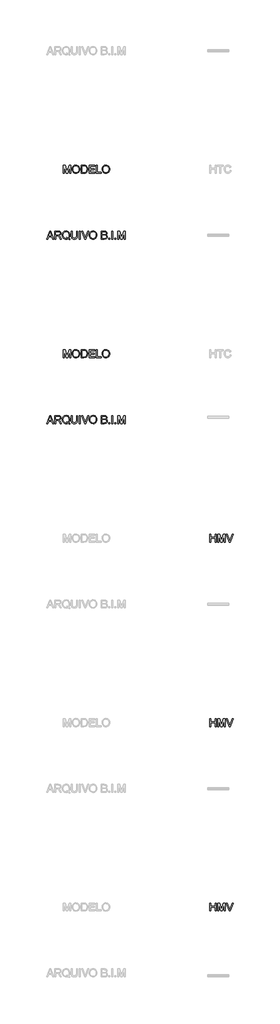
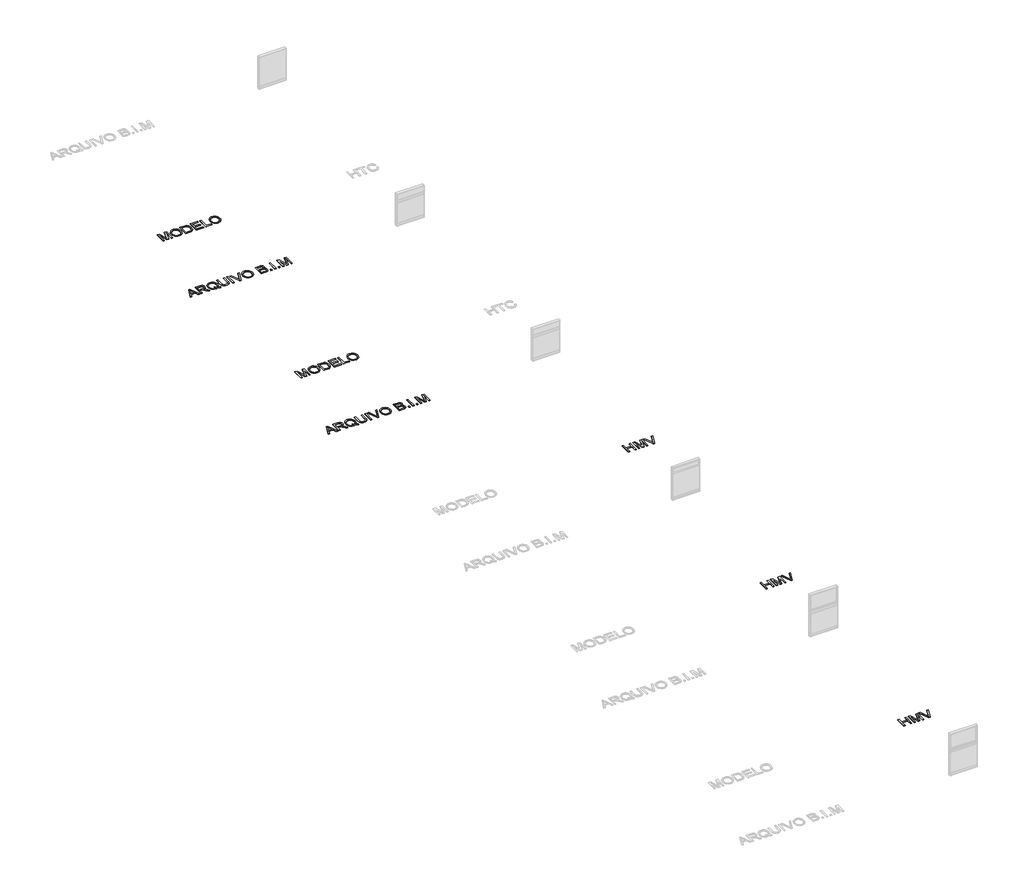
# One storey, part 5 of 8: 7 proxies.
"""IFC4 building model written with IfcOpenShell, lengths in millimetres."""

from ifc_helpers import new_model, si_unit, origin, origin_with_axes, place, context, project, spatial, polyline, outline, extrude, element, save

model = new_model("IFC4")

# Units and contexts
model_context = context("Model", 3, world=origin())
ifc_project = project(units=[si_unit("LENGTHUNIT", "METRE", prefix="MILLI")], contexts=[model_context])

# Site, building, storey
site = spatial("IfcSite", under=ifc_project)
building = spatial("IfcBuilding", under=site)
storey = spatial("IfcBuildingStorey", under=building, Name="Marelli - Linha HABITAT - Planta Baixa", Elevation=0.0)

# Proxies
placement = place(None, origin())
element("IfcBuildingElementProxy", 1, Name="300mm Arial", ObjectType="300mm Arial", at=placement, inside=storey, context=model_context, shape_type="SweptSolid", body=[
    extrude(outline(polyline([(29390.580402, -24280.5663201), (29510.8778144, -23979.1973896), (29542.9571244, -23979.1973896), (29663.2545368, -24280.5663201), (29623.449705, -24280.5663201), (29588.9423738, -24186.3885293), (29464.8189886, -24186.3885293), (29430.3852339, -24280.5663201), (29390.580402, -24280.5663201)]), holes=[polyline([(29478.6513517, -24148.717413), (29575.1835872, -24148.717413), (29548.0338959, -24074.6259792), (29526.9174694, -24016.8685059), (29508.1554877, -24068.1512561), (29478.6513517, -24148.717413)])]), origin_with_axes(), (0.0, 0.0, 1.0), 10.0),
    extrude(outline(polyline([(29703.5008271, -24280.5663201), (29703.5008271, -23979.1973896), (29833.3631714, -23979.1973896), (29868.2659757, -23981.2299376), (29893.6590304, -23987.3275817), (29912.2186771, -23998.5847708), (29926.6212572, -24016.0959537), (29935.8642923, -24037.8101885), (29938.945304, -24061.6765329), (29933.8409413, -24091.3646099), (29918.5278533, -24115.9759154), (29906.9280741, -24126.0052983), (29892.5461874, -24134.0205273), (29855.4360911, -24144.0085235), (29876.8468232, -24160.1217548), (29907.3810288, -24198.8965171), (29957.6337094, -24280.5663201), (29913.855752, -24280.5663201), (29874.6395313, -24218.0999573), (29846.3126176, -24176.750021), (29826.4102017, -24157.2154871), (29808.4943485, -24150.0417882), (29786.642158, -24148.717413), (29741.1719434, -24148.717413), (29741.1719434, -24280.5663201), (29703.5008271, -24280.5663201)]), holes=[polyline([(29741.1719434, -24111.0462967), (29825.4904967, -24111.0462967), (29849.706329, -24109.7127245), (29868.4959019, -24105.7120078), (29882.6409647, -24098.7774322), (29892.9232664, -24088.6422832), (29899.1864574, -24076.3826157), (29901.2741877, -24063.0744845), (29897.2918651, -24044.6987789), (29885.3448973, -24029.8915286), (29864.7894908, -24020.1242616), (29834.9818522, -24016.8685059), (29741.1719434, -24016.8685059), (29741.1719434, -24111.0462967)])]), origin_with_axes(), (0.0, 0.0, 1.0), 10.0),
    extrude(outline(polyline([(30231.2643374, -24244.4403081), (30255.5997314, -24263.036743), (30277.9853508, -24275.8574305), (30267.8318077, -24303.4485802), (30236.7641732, -24289.0460001), (30205.8069033, -24268.205485), (30170.9500843, -24281.0077785), (30132.5983863, -24285.2752096), (30094.0627473, -24280.3547879), (30059.2427164, -24265.5935229), (30030.0788713, -24241.9203165), (30008.5117893, -24210.2640708), (29995.185264, -24172.3630282), (29990.7430889, -24129.9554312), (29995.176067, -24087.511046), (30008.4750011, -24049.0581805), (30029.9593096, -24016.9512794), (30058.9484108, -23993.5447874), (30093.639683, -23979.2525719), (30132.2305043, -23974.4885001), (30171.1248282, -23979.3629365), (30205.9908443, -23993.9862458), (30234.9339603, -24017.3835407), (30256.0595839, -24048.5799339), (30268.9722419, -24085.9199564), (30273.2764612, -24127.7481393), (30270.6644991, -24162.5313819), (30262.8286126, -24193.5990164), (30249.7136194, -24220.9142546), (30231.2643374, -24244.4403081)]), holes=[polyline([(30142.9726585, -24194.3347804), (30174.6472983, -24206.3093393), (30200.215097, -24222.9559996), (30215.6983305, -24205.4816049), (30226.7577829, -24184.1076609), (30233.3934544, -24158.8341679), (30235.6053449, -24129.6611256), (30232.478348, -24096.5057608), (30223.0973571, -24067.8201623), (30207.6922985, -24044.3308969), (30186.4930986, -24026.7645316), (30160.934497, -24015.8108452), (30132.4512335, -24012.1596164), (30110.966925, -24014.0059242), (30091.3956028, -24019.5448474), (30073.7372671, -24028.7763863), (30057.9919177, -24041.7005406), (30045.0516685, -24058.2897193), (30035.8086334, -24078.5163313), (30030.2628123, -24102.3803764), (30028.4142053, -24129.8818548), (30030.2421189, -24156.6659634), (30035.7258599, -24180.1437324), (30044.8654282, -24200.3151621), (30057.6608239, -24217.1802523), (30073.2981079, -24230.4906827), (30090.9633415, -24239.9981331), (30110.6565245, -24245.7026032), (30132.3776571, -24247.6040933), (30153.2917485, -24245.6727128), (30172.918253, -24239.8785714), (30153.6228423, -24229.853787), (30133.2605739, -24223.1767288), (30142.9726585, -24194.3347804)])]), origin_with_axes(), (0.0, 0.0, 1.0), 10.0),
    extrude(outline(polyline([(30527.5564963, -23979.1973896), (30565.2276126, -23979.1973896), (30565.2276126, -24153.0584205), (30562.6708327, -24193.7737604), (30555.0004931, -24225.1265034), (30540.6714894, -24249.3147446), (30518.1387172, -24268.5365788), (30487.3469942, -24281.0905519), (30448.2411381, -24285.2752096), (30409.9906077, -24281.6331779), (30379.4104168, -24270.7070826), (30356.4913685, -24252.8740029), (30341.2242657, -24228.5110178), (30332.6434182, -24195.8338995), (30329.7831357, -24153.0584205), (30329.7831357, -23979.1973896), (30367.454252, -23979.1973896), (30367.454252, -24151.7340454), (30369.3120561, -24185.588386), (30374.8854683, -24209.1604248), (30384.9838291, -24225.4851883), (30400.4164788, -24237.597703), (30420.5396239, -24245.1024957), (30444.709471, -24247.6040933), (30483.0243808, -24242.6560805), (30497.3671801, -24236.4710644), (30508.500209, -24227.812042), (30516.8373347, -24215.6351479), (30522.7924245, -24198.8965171), (30527.5564963, -24151.7340454), (30527.5564963, -23979.1973896)])), origin_with_axes(), (0.0, 0.0, 1.0), 10.0),
    extrude(outline(polyline([(30635.8609557, -24280.5663201), (30635.8609557, -23979.1973896), (30673.532072, -23979.1973896), (30673.532072, -24280.5663201), (30635.8609557, -24280.5663201)])), origin_with_axes(), (0.0, 0.0, 1.0), 10.0),
    extrude(outline(polyline([(30837.9017474, -24280.5663201), (30717.972217, -23979.1973896), (30758.2920837, -23979.1973896), (30838.563935, -24196.3213432), (30854.8243192, -24245.2496485), (30870.8639742, -24196.3213432), (30951.3565547, -23979.1973896), (30991.6764214, -23979.1973896), (30876.8236625, -24280.5663201), (30837.9017474, -24280.5663201)])), origin_with_axes(), (0.0, 0.0, 1.0), 10.0),
    extrude(outline(polyline([(31012.5721187, -24133.8549804), (31015.0829134, -24098.5061192), (31022.6152972, -24067.213157), (31035.1692703, -24039.9760937), (31052.7448326, -24016.7949295), (31074.288922, -23998.2858666), (31098.7484761, -23985.0651074), (31126.1234951, -23977.1326519), (31156.4139789, -23974.4885001), (31195.9428992, -23979.454907), (31231.3883295, -23994.3541278), (31260.8188891, -24018.1376988), (31282.3031976, -24049.7571563), (31295.4365848, -24087.68579), (31299.8143806, -24130.3968896), (31295.2066586, -24173.6782064), (31281.3834926, -24212.140269), (31259.1082378, -24243.8149088), (31229.1442493, -24266.733957), (31194.0023217, -24280.6398965), (31156.1932497, -24285.2752096), (31116.057324, -24280.1524528), (31080.4095587, -24264.7841825), (31051.0525754, -24240.5591531), (31029.7889961, -24208.8661192), (31016.8763381, -24172.3998164), (31012.5721187, -24133.8549804)]), holes=[polyline([(31050.2432351, -24134.2228624), (31052.126331, -24159.1974513), (31057.7756189, -24181.3669401), (31067.1910987, -24200.7313286), (31080.3727705, -24217.2906169), (31096.3963306, -24230.5527628), (31114.3374757, -24240.0257242), (31134.1962056, -24245.709501), (31155.9725205, -24247.6040933), (31178.1213158, -24245.6911069), (31198.2145706, -24239.9521478), (31216.2522846, -24230.3872159), (31232.2344581, -24216.9963113), (31245.3195608, -24200.0875351), (31254.6660627, -24179.9689885), (31260.2739639, -24156.6406715), (31262.1432643, -24130.102584), (31258.9426909, -24096.7540812), (31249.3409708, -24067.9305269), (31233.5864244, -24044.358488), (31211.9273719, -24026.7645316), (31185.7985532, -24015.8108452), (31156.6347081, -24012.1596164), (31135.6148506, -24013.9185522), (31116.1125063, -24019.1953595), (31098.1276753, -24027.9900385), (31081.6603574, -24040.302589), (31067.9153664, -24056.7262208), (31058.0975157, -24077.8541437), (31052.2068052, -24103.6863575), (31050.2432351, -24134.2228624)])]), origin_with_axes(), (0.0, 0.0, 1.0), 10.0),
    extrude(outline(polyline([(31469.334404, -24280.5663201), (31469.334404, -23979.1973896), (31584.3343157, -23979.1973896), (31615.9629702, -23981.4138786), (31640.6570491, -23988.0633457), (31659.5845778, -23999.3113377), (31673.9135815, -24015.3234015), (31682.9358874, -24034.1589597), (31685.9433227, -24053.8774346), (31683.414134, -24072.0232141), (31675.8265679, -24089.0837416), (31663.125442, -24104.0105535), (31645.2555741, -24115.7551862), (31666.6019268, -24126.9020107), (31682.3748674, -24143.8613707), (31692.1145432, -24165.5112261), (31695.3611018, -24190.7295368), (31693.1446128, -24211.7447958), (31686.4951457, -24231.2333445), (31676.5715289, -24247.8064284), (31664.5325906, -24260.0752929), (31649.7897196, -24268.9596431), (31631.7543048, -24275.3791839), (31583.4513989, -24280.5663201), (31469.334404, -24280.5663201)]), holes=[polyline([(31507.0055203, -24101.6285176), (31575.7994534, -24101.6285176), (31615.9721672, -24098.3911561), (31630.0344565, -24092.8085468), (31640.1420143, -24084.4484284), (31646.2396584, -24073.4395597), (31648.2722064, -24059.9106994), (31646.3776141, -24046.7773121), (31640.6938373, -24035.3361821), (31631.4783933, -24026.4058467), (31618.9887996, -24020.8048433), (31570.575529, -24016.8685059), (31507.0055203, -24016.8685059), (31507.0055203, -24101.6285176)]), polyline([(31507.0055203, -24242.8952038), (31584.2607393, -24242.8952038), (31612.2197709, -24241.4236758), (31635.8745832, -24233.2199073), (31651.5463562, -24216.4812765), (31656.1540782, -24204.6538704), (31657.6899855, -24191.0974188), (31655.8873637, -24175.3520694), (31650.4794984, -24161.814012), (31641.0341282, -24151.2282076), (31627.1189917, -24144.3396173), (31607.4097138, -24140.5596298), (31580.5819193, -24139.2996339), (31507.0055203, -24139.2996339), (31507.0055203, -24242.8952038)])]), origin_with_axes(), (0.0, 0.0, 1.0), 10.0),
    extrude(outline(polyline([(31751.8677763, -24280.5663201), (31751.8677763, -24242.8952038), (31789.5388926, -24242.8952038), (31789.5388926, -24280.5663201), (31751.8677763, -24280.5663201)])), origin_with_axes(), (0.0, 0.0, 1.0), 10.0),
    extrude(outline(polyline([(31869.5900147, -24280.5663201), (31869.5900147, -23979.1973896), (31907.261131, -23979.1973896), (31907.261131, -24280.5663201), (31869.5900147, -24280.5663201)])), origin_with_axes(), (0.0, 0.0, 1.0), 10.0),
    extrude(outline(polyline([(31987.3122532, -24280.5663201), (31987.3122532, -24242.8952038), (32024.9833695, -24242.8952038), (32024.9833695, -24280.5663201), (31987.3122532, -24280.5663201)])), origin_with_axes(), (0.0, 0.0, 1.0), 10.0),
    extrude(outline(polyline([(32100.3256021, -24280.5663201), (32100.3256021, -23979.1973896), (32165.1464096, -23979.1973896), (32226.803432, -24191.6124536), (32239.2378435, -24235.9790223), (32252.7023245, -24187.9336337), (32313.3292773, -23979.1973896), (32378.1500848, -23979.1973896), (32378.1500848, -24280.5663201), (32340.4789685, -24280.5663201), (32340.4789685, -24016.8685059), (32264.7688539, -24280.5663201), (32213.706833, -24280.5663201), (32137.9967184, -24016.8685059), (32137.9967184, -24280.5663201), (32100.3256021, -24280.5663201)])), origin_with_axes(), (0.0, 0.0, 1.0), 10.0),
])
element("IfcBuildingElementProxy", 2, Name="300mm Arial", ObjectType="300mm Arial", at=placement, inside=storey, context=model_context, shape_type="SweptSolid", body=[
    extrude(outline(polyline([(30033.1230948, -21780.5663201), (30033.1230948, -21479.1973896), (30097.9439023, -21479.1973896), (30159.6009247, -21691.6124536), (30172.0353362, -21735.9790223), (30185.4998172, -21687.9336337), (30246.12677, -21479.1973896), (30310.9475775, -21479.1973896), (30310.9475775, -21780.5663201), (30273.2764612, -21780.5663201), (30273.2764612, -21516.8685059), (30197.5663466, -21780.5663201), (30146.5043257, -21780.5663201), (30070.7942111, -21516.8685059), (30070.7942111, -21780.5663201), (30033.1230948, -21780.5663201)])), origin_with_axes(), (0.0, 0.0, 1.0), 10.0),
    extrude(outline(polyline([(30362.7453625, -21633.8549804), (30365.2561571, -21598.5061192), (30372.7885409, -21567.213157), (30385.342514, -21539.9760937), (30402.9180763, -21516.7949295), (30424.4621657, -21498.2858666), (30448.9217198, -21485.0651074), (30476.2967388, -21477.1326519), (30506.5872226, -21474.4885001), (30546.116143, -21479.454907), (30581.5615732, -21494.3541278), (30610.9921328, -21518.1376988), (30632.4764413, -21549.7571563), (30645.6098286, -21587.68579), (30649.9876243, -21630.3968896), (30645.3799023, -21673.6782064), (30631.5567363, -21712.140269), (30609.2814815, -21743.8149088), (30579.317493, -21766.733957), (30544.1755654, -21780.6398965), (30506.3664934, -21785.2752096), (30466.2305677, -21780.1524528), (30430.5828024, -21764.7841825), (30401.2258192, -21740.5591531), (30379.9622398, -21708.8661192), (30367.0495818, -21672.3998164), (30362.7453625, -21633.8549804)]), holes=[polyline([(30400.4164788, -21634.2228624), (30402.2995747, -21659.1974513), (30407.9488626, -21681.3669401), (30417.3643424, -21700.7313286), (30430.5460142, -21717.2906169), (30446.5695743, -21730.5527628), (30464.5107194, -21740.0257242), (30484.3694493, -21745.709501), (30506.1457642, -21747.6040933), (30528.2945596, -21745.6911069), (30548.3878143, -21739.9521478), (30566.4255284, -21730.3872159), (30582.4077018, -21716.9963113), (30595.4928045, -21700.0875351), (30604.8393064, -21679.9689885), (30610.4472076, -21656.6406715), (30612.316508, -21630.102584), (30609.1159346, -21596.7540812), (30599.5142146, -21567.9305269), (30583.7596681, -21544.358488), (30562.1006157, -21526.7645316), (30535.9717969, -21515.8108452), (30506.8079518, -21512.1596164), (30485.7880943, -21513.9185522), (30466.28575, -21519.1953595), (30448.300919, -21527.9900385), (30431.8336012, -21540.302589), (30418.0886101, -21556.7262208), (30408.2707594, -21577.8541437), (30402.3800489, -21603.6863575), (30400.4164788, -21634.2228624)])]), origin_with_axes(), (0.0, 0.0, 1.0), 10.0),
    extrude(outline(polyline([(30701.7854092, -21780.5663201), (30701.7854092, -21479.1973896), (30805.7488611, -21479.1973896), (30859.5332088, -21483.5383972), (30883.555903, -21491.9077126), (30903.826201, -21505.0962821), (30924.666716, -21528.0521186), (30939.5107545, -21556.5997614), (30948.3951047, -21590.1873876), (30951.3565547, -21628.2631741), (30949.3515979, -21660.6091985), (30943.3367273, -21689.0740679), (30934.1764656, -21713.3082943), (30922.7353355, -21732.9623899), (30909.5651601, -21748.477813), (30895.2177623, -21760.2960221), (30878.745846, -21769.0608107), (30859.202115, -21775.4159721), (30810.7520562, -21780.5663201), (30701.7854092, -21780.5663201)]), holes=[polyline([(30739.4565255, -21742.8952038), (30806.1167431, -21742.8952038), (30833.6894986, -21741.5340404), (30854.60359, -21737.4505502), (30870.3857276, -21730.8838566), (30882.5626217, -21722.0730828), (30895.6500236, -21705.7667134), (30905.48167, -21684.6594839), (30911.6344963, -21658.6594239), (30913.6854384, -21627.6745629), (30909.6663276, -21586.6189322), (30897.6089953, -21556.3054558), (30879.7943096, -21535.4833349), (30858.5031392, -21522.9017706), (30836.8348897, -21518.3768221), (30805.0866735, -21516.8685059), (30739.4565255, -21516.8685059), (30739.4565255, -21742.8952038)])]), origin_with_axes(), (0.0, 0.0, 1.0), 10.0),
    extrude(outline(polyline([(31003.1543397, -21780.5663201), (31003.1543397, -21479.1973896), (31219.7632584, -21479.1973896), (31219.7632584, -21516.8685059), (31040.825456, -21516.8685059), (31040.825456, -21606.3374072), (31210.3454794, -21606.3374072), (31210.3454794, -21644.0085235), (31040.825456, -21644.0085235), (31040.825456, -21742.8952038), (31224.472148, -21742.8952038), (31224.472148, -21780.5663201), (31003.1543397, -21780.5663201)])), origin_with_axes(), (0.0, 0.0, 1.0), 10.0),
    extrude(outline(polyline([(31280.9788224, -21780.5663201), (31280.9788224, -21479.1973896), (31318.6499387, -21479.1973896), (31318.6499387, -21742.8952038), (31469.334404, -21742.8952038), (31469.334404, -21780.5663201), (31280.9788224, -21780.5663201)])), origin_with_axes(), (0.0, 0.0, 1.0), 10.0),
    extrude(outline(polyline([(31497.5877412, -21633.8549804), (31500.0985358, -21598.5061192), (31507.6309197, -21567.213157), (31520.1848927, -21539.9760937), (31537.7604551, -21516.7949295), (31559.3045444, -21498.2858666), (31583.7640986, -21485.0651074), (31611.1391175, -21477.1326519), (31641.4296013, -21474.4885001), (31680.9585217, -21479.454907), (31716.4039519, -21494.3541278), (31745.8345115, -21518.1376988), (31767.3188201, -21549.7571563), (31780.4522073, -21587.68579), (31784.830003, -21630.3968896), (31780.222281, -21673.6782064), (31766.3991151, -21712.140269), (31744.1238603, -21743.8149088), (31714.1598717, -21766.733957), (31679.0179442, -21780.6398965), (31641.2088721, -21785.2752096), (31601.0729464, -21780.1524528), (31565.4251811, -21764.7841825), (31536.0681979, -21740.5591531), (31514.8046186, -21708.8661192), (31501.8919605, -21672.3998164), (31497.5877412, -21633.8549804)]), holes=[polyline([(31535.2588575, -21634.2228624), (31537.1419535, -21659.1974513), (31542.7912413, -21681.3669401), (31552.2067212, -21700.7313286), (31565.3883929, -21717.2906169), (31581.4119531, -21730.5527628), (31599.3530981, -21740.0257242), (31619.2118281, -21745.709501), (31640.9881429, -21747.6040933), (31663.1369383, -21745.6911069), (31683.230193, -21739.9521478), (31701.2679071, -21730.3872159), (31717.2500805, -21716.9963113), (31730.3351832, -21700.0875351), (31739.6816852, -21679.9689885), (31745.2895863, -21656.6406715), (31747.1588867, -21630.102584), (31743.9583134, -21596.7540812), (31734.3565933, -21567.9305269), (31718.6020468, -21544.358488), (31696.9429944, -21526.7645316), (31670.8141757, -21515.8108452), (31641.6503305, -21512.1596164), (31620.630473, -21513.9185522), (31601.1281287, -21519.1953595), (31583.1432977, -21527.9900385), (31566.6759799, -21540.302589), (31552.9309888, -21556.7262208), (31543.1131381, -21577.8541437), (31537.2224276, -21603.6863575), (31535.2588575, -21634.2228624)])]), origin_with_axes(), (0.0, 0.0, 1.0), 10.0),
])
element("IfcBuildingElementProxy", 3, Name="300mm Arial", ObjectType="300mm Arial", at=placement, inside=storey, context=model_context, shape_type="SweptSolid", body=[
    extrude(outline(polyline([(29390.580402, -31280.5663201), (29510.8778144, -30979.1973896), (29542.9571244, -30979.1973896), (29663.2545368, -31280.5663201), (29623.449705, -31280.5663201), (29588.9423738, -31186.3885293), (29464.8189886, -31186.3885293), (29430.3852339, -31280.5663201), (29390.580402, -31280.5663201)]), holes=[polyline([(29478.6513517, -31148.717413), (29575.1835872, -31148.717413), (29548.0338959, -31074.6259792), (29526.9174694, -31016.8685059), (29508.1554877, -31068.1512561), (29478.6513517, -31148.717413)])]), origin_with_axes(), (0.0, 0.0, 1.0), 10.0),
    extrude(outline(polyline([(29703.5008271, -31280.5663201), (29703.5008271, -30979.1973896), (29833.3631714, -30979.1973896), (29868.2659757, -30981.2299376), (29893.6590304, -30987.3275817), (29912.2186771, -30998.5847708), (29926.6212572, -31016.0959537), (29935.8642923, -31037.8101885), (29938.945304, -31061.6765329), (29933.8409413, -31091.3646099), (29918.5278533, -31115.9759154), (29906.9280741, -31126.0052983), (29892.5461874, -31134.0205273), (29855.4360911, -31144.0085235), (29876.8468232, -31160.1217548), (29907.3810288, -31198.8965171), (29957.6337094, -31280.5663201), (29913.855752, -31280.5663201), (29874.6395313, -31218.0999573), (29846.3126176, -31176.750021), (29826.4102017, -31157.2154871), (29808.4943485, -31150.0417882), (29786.642158, -31148.717413), (29741.1719434, -31148.717413), (29741.1719434, -31280.5663201), (29703.5008271, -31280.5663201)]), holes=[polyline([(29741.1719434, -31111.0462967), (29825.4904967, -31111.0462967), (29849.706329, -31109.7127245), (29868.4959019, -31105.7120078), (29882.6409647, -31098.7774322), (29892.9232664, -31088.6422832), (29899.1864574, -31076.3826157), (29901.2741877, -31063.0744845), (29897.2918651, -31044.6987789), (29885.3448973, -31029.8915286), (29864.7894908, -31020.1242616), (29834.9818522, -31016.8685059), (29741.1719434, -31016.8685059), (29741.1719434, -31111.0462967)])]), origin_with_axes(), (0.0, 0.0, 1.0), 10.0),
    extrude(outline(polyline([(30231.2643374, -31244.4403081), (30255.5997314, -31263.036743), (30277.9853508, -31275.8574305), (30267.8318077, -31303.4485802), (30236.7641732, -31289.0460001), (30205.8069033, -31268.205485), (30170.9500843, -31281.0077785), (30132.5983863, -31285.2752096), (30094.0627473, -31280.3547879), (30059.2427164, -31265.5935229), (30030.0788713, -31241.9203165), (30008.5117893, -31210.2640708), (29995.185264, -31172.3630282), (29990.7430889, -31129.9554312), (29995.176067, -31087.511046), (30008.4750011, -31049.0581805), (30029.9593096, -31016.9512794), (30058.9484108, -30993.5447874), (30093.639683, -30979.2525719), (30132.2305043, -30974.4885001), (30171.1248282, -30979.3629365), (30205.9908443, -30993.9862458), (30234.9339603, -31017.3835407), (30256.0595839, -31048.5799339), (30268.9722419, -31085.9199564), (30273.2764612, -31127.7481393), (30270.6644991, -31162.5313819), (30262.8286126, -31193.5990164), (30249.7136194, -31220.9142546), (30231.2643374, -31244.4403081)]), holes=[polyline([(30142.9726585, -31194.3347804), (30174.6472983, -31206.3093393), (30200.215097, -31222.9559996), (30215.6983305, -31205.4816049), (30226.7577829, -31184.1076609), (30233.3934544, -31158.8341679), (30235.6053449, -31129.6611256), (30232.478348, -31096.5057608), (30223.0973571, -31067.8201623), (30207.6922985, -31044.3308969), (30186.4930986, -31026.7645316), (30160.934497, -31015.8108452), (30132.4512335, -31012.1596164), (30110.966925, -31014.0059242), (30091.3956028, -31019.5448474), (30073.7372671, -31028.7763863), (30057.9919177, -31041.7005406), (30045.0516685, -31058.2897193), (30035.8086334, -31078.5163313), (30030.2628123, -31102.3803764), (30028.4142053, -31129.8818548), (30030.2421189, -31156.6659634), (30035.7258599, -31180.1437324), (30044.8654282, -31200.3151621), (30057.6608239, -31217.1802523), (30073.2981079, -31230.4906827), (30090.9633415, -31239.9981331), (30110.6565245, -31245.7026032), (30132.3776571, -31247.6040933), (30153.2917485, -31245.6727128), (30172.918253, -31239.8785714), (30153.6228423, -31229.853787), (30133.2605739, -31223.1767288), (30142.9726585, -31194.3347804)])]), origin_with_axes(), (0.0, 0.0, 1.0), 10.0),
    extrude(outline(polyline([(30527.5564963, -30979.1973896), (30565.2276126, -30979.1973896), (30565.2276126, -31153.0584205), (30562.6708327, -31193.7737604), (30555.0004931, -31225.1265034), (30540.6714894, -31249.3147446), (30518.1387172, -31268.5365788), (30487.3469942, -31281.0905519), (30448.2411381, -31285.2752096), (30409.9906077, -31281.6331779), (30379.4104168, -31270.7070826), (30356.4913685, -31252.8740029), (30341.2242657, -31228.5110178), (30332.6434182, -31195.8338995), (30329.7831357, -31153.0584205), (30329.7831357, -30979.1973896), (30367.454252, -30979.1973896), (30367.454252, -31151.7340454), (30369.3120561, -31185.588386), (30374.8854683, -31209.1604248), (30384.9838291, -31225.4851883), (30400.4164788, -31237.597703), (30420.5396239, -31245.1024957), (30444.709471, -31247.6040933), (30483.0243808, -31242.6560805), (30497.3671801, -31236.4710644), (30508.500209, -31227.812042), (30516.8373347, -31215.6351479), (30522.7924245, -31198.8965171), (30527.5564963, -31151.7340454), (30527.5564963, -30979.1973896)])), origin_with_axes(), (0.0, 0.0, 1.0), 10.0),
    extrude(outline(polyline([(30635.8609557, -31280.5663201), (30635.8609557, -30979.1973896), (30673.532072, -30979.1973896), (30673.532072, -31280.5663201), (30635.8609557, -31280.5663201)])), origin_with_axes(), (0.0, 0.0, 1.0), 10.0),
    extrude(outline(polyline([(30837.9017474, -31280.5663201), (30717.972217, -30979.1973896), (30758.2920837, -30979.1973896), (30838.563935, -31196.3213432), (30854.8243192, -31245.2496485), (30870.8639742, -31196.3213432), (30951.3565547, -30979.1973896), (30991.6764214, -30979.1973896), (30876.8236625, -31280.5663201), (30837.9017474, -31280.5663201)])), origin_with_axes(), (0.0, 0.0, 1.0), 10.0),
    extrude(outline(polyline([(31012.5721187, -31133.8549804), (31015.0829134, -31098.5061192), (31022.6152972, -31067.213157), (31035.1692703, -31039.9760937), (31052.7448326, -31016.7949295), (31074.288922, -30998.2858666), (31098.7484761, -30985.0651074), (31126.1234951, -30977.1326519), (31156.4139789, -30974.4885001), (31195.9428992, -30979.454907), (31231.3883295, -30994.3541278), (31260.8188891, -31018.1376988), (31282.3031976, -31049.7571563), (31295.4365848, -31087.68579), (31299.8143806, -31130.3968896), (31295.2066586, -31173.6782064), (31281.3834926, -31212.140269), (31259.1082378, -31243.8149088), (31229.1442493, -31266.733957), (31194.0023217, -31280.6398965), (31156.1932497, -31285.2752096), (31116.057324, -31280.1524528), (31080.4095587, -31264.7841825), (31051.0525754, -31240.5591531), (31029.7889961, -31208.8661192), (31016.8763381, -31172.3998164), (31012.5721187, -31133.8549804)]), holes=[polyline([(31050.2432351, -31134.2228624), (31052.126331, -31159.1974513), (31057.7756189, -31181.3669401), (31067.1910987, -31200.7313286), (31080.3727705, -31217.2906169), (31096.3963306, -31230.5527628), (31114.3374757, -31240.0257242), (31134.1962056, -31245.709501), (31155.9725205, -31247.6040933), (31178.1213158, -31245.6911069), (31198.2145706, -31239.9521478), (31216.2522846, -31230.3872159), (31232.2344581, -31216.9963113), (31245.3195608, -31200.0875351), (31254.6660627, -31179.9689885), (31260.2739639, -31156.6406715), (31262.1432643, -31130.102584), (31258.9426909, -31096.7540812), (31249.3409708, -31067.9305269), (31233.5864244, -31044.358488), (31211.9273719, -31026.7645316), (31185.7985532, -31015.8108452), (31156.6347081, -31012.1596164), (31135.6148506, -31013.9185522), (31116.1125063, -31019.1953595), (31098.1276753, -31027.9900385), (31081.6603574, -31040.302589), (31067.9153664, -31056.7262208), (31058.0975157, -31077.8541437), (31052.2068052, -31103.6863575), (31050.2432351, -31134.2228624)])]), origin_with_axes(), (0.0, 0.0, 1.0), 10.0),
    extrude(outline(polyline([(31469.334404, -31280.5663201), (31469.334404, -30979.1973896), (31584.3343157, -30979.1973896), (31615.9629702, -30981.4138786), (31640.6570491, -30988.0633457), (31659.5845778, -30999.3113377), (31673.9135815, -31015.3234015), (31682.9358874, -31034.1589597), (31685.9433227, -31053.8774346), (31683.414134, -31072.0232141), (31675.8265679, -31089.0837416), (31663.125442, -31104.0105535), (31645.2555741, -31115.7551862), (31666.6019268, -31126.9020107), (31682.3748674, -31143.8613707), (31692.1145432, -31165.5112261), (31695.3611018, -31190.7295368), (31693.1446128, -31211.7447958), (31686.4951457, -31231.2333445), (31676.5715289, -31247.8064284), (31664.5325906, -31260.0752929), (31649.7897196, -31268.9596431), (31631.7543048, -31275.3791839), (31583.4513989, -31280.5663201), (31469.334404, -31280.5663201)]), holes=[polyline([(31507.0055203, -31101.6285176), (31575.7994534, -31101.6285176), (31615.9721672, -31098.3911561), (31630.0344565, -31092.8085468), (31640.1420143, -31084.4484284), (31646.2396584, -31073.4395597), (31648.2722064, -31059.9106994), (31646.3776141, -31046.7773121), (31640.6938373, -31035.3361821), (31631.4783933, -31026.4058467), (31618.9887996, -31020.8048433), (31570.575529, -31016.8685059), (31507.0055203, -31016.8685059), (31507.0055203, -31101.6285176)]), polyline([(31507.0055203, -31242.8952038), (31584.2607393, -31242.8952038), (31612.2197709, -31241.4236758), (31635.8745832, -31233.2199073), (31651.5463562, -31216.4812765), (31656.1540782, -31204.6538704), (31657.6899855, -31191.0974188), (31655.8873637, -31175.3520694), (31650.4794984, -31161.814012), (31641.0341282, -31151.2282076), (31627.1189917, -31144.3396173), (31607.4097138, -31140.5596298), (31580.5819193, -31139.2996339), (31507.0055203, -31139.2996339), (31507.0055203, -31242.8952038)])]), origin_with_axes(), (0.0, 0.0, 1.0), 10.0),
    extrude(outline(polyline([(31751.8677763, -31280.5663201), (31751.8677763, -31242.8952038), (31789.5388926, -31242.8952038), (31789.5388926, -31280.5663201), (31751.8677763, -31280.5663201)])), origin_with_axes(), (0.0, 0.0, 1.0), 10.0),
    extrude(outline(polyline([(31869.5900147, -31280.5663201), (31869.5900147, -30979.1973896), (31907.261131, -30979.1973896), (31907.261131, -31280.5663201), (31869.5900147, -31280.5663201)])), origin_with_axes(), (0.0, 0.0, 1.0), 10.0),
    extrude(outline(polyline([(31987.3122532, -31280.5663201), (31987.3122532, -31242.8952038), (32024.9833695, -31242.8952038), (32024.9833695, -31280.5663201), (31987.3122532, -31280.5663201)])), origin_with_axes(), (0.0, 0.0, 1.0), 10.0),
    extrude(outline(polyline([(32100.3256021, -31280.5663201), (32100.3256021, -30979.1973896), (32165.1464096, -30979.1973896), (32226.803432, -31191.6124536), (32239.2378435, -31235.9790223), (32252.7023245, -31187.9336337), (32313.3292773, -30979.1973896), (32378.1500848, -30979.1973896), (32378.1500848, -31280.5663201), (32340.4789685, -31280.5663201), (32340.4789685, -31016.8685059), (32264.7688539, -31280.5663201), (32213.706833, -31280.5663201), (32137.9967184, -31016.8685059), (32137.9967184, -31280.5663201), (32100.3256021, -31280.5663201)])), origin_with_axes(), (0.0, 0.0, 1.0), 10.0),
])
element("IfcBuildingElementProxy", 4, Name="300mm Arial", ObjectType="300mm Arial", at=placement, inside=storey, context=model_context, shape_type="SweptSolid", body=[
    extrude(outline(polyline([(30033.1230948, -28780.5663201), (30033.1230948, -28479.1973896), (30097.9439023, -28479.1973896), (30159.6009247, -28691.6124536), (30172.0353362, -28735.9790223), (30185.4998172, -28687.9336337), (30246.12677, -28479.1973896), (30310.9475775, -28479.1973896), (30310.9475775, -28780.5663201), (30273.2764612, -28780.5663201), (30273.2764612, -28516.8685059), (30197.5663466, -28780.5663201), (30146.5043257, -28780.5663201), (30070.7942111, -28516.8685059), (30070.7942111, -28780.5663201), (30033.1230948, -28780.5663201)])), origin_with_axes(), (0.0, 0.0, 1.0), 10.0),
    extrude(outline(polyline([(30362.7453625, -28633.8549804), (30365.2561571, -28598.5061192), (30372.7885409, -28567.213157), (30385.342514, -28539.9760937), (30402.9180763, -28516.7949295), (30424.4621657, -28498.2858666), (30448.9217198, -28485.0651074), (30476.2967388, -28477.1326519), (30506.5872226, -28474.4885001), (30546.116143, -28479.454907), (30581.5615732, -28494.3541278), (30610.9921328, -28518.1376988), (30632.4764413, -28549.7571563), (30645.6098286, -28587.68579), (30649.9876243, -28630.3968896), (30645.3799023, -28673.6782064), (30631.5567363, -28712.140269), (30609.2814815, -28743.8149088), (30579.317493, -28766.733957), (30544.1755654, -28780.6398965), (30506.3664934, -28785.2752096), (30466.2305677, -28780.1524528), (30430.5828024, -28764.7841825), (30401.2258192, -28740.5591531), (30379.9622398, -28708.8661192), (30367.0495818, -28672.3998164), (30362.7453625, -28633.8549804)]), holes=[polyline([(30400.4164788, -28634.2228624), (30402.2995747, -28659.1974513), (30407.9488626, -28681.3669401), (30417.3643424, -28700.7313286), (30430.5460142, -28717.2906169), (30446.5695743, -28730.5527628), (30464.5107194, -28740.0257242), (30484.3694493, -28745.709501), (30506.1457642, -28747.6040933), (30528.2945596, -28745.6911069), (30548.3878143, -28739.9521478), (30566.4255284, -28730.3872159), (30582.4077018, -28716.9963113), (30595.4928045, -28700.0875351), (30604.8393064, -28679.9689885), (30610.4472076, -28656.6406715), (30612.316508, -28630.102584), (30609.1159346, -28596.7540812), (30599.5142146, -28567.9305269), (30583.7596681, -28544.358488), (30562.1006157, -28526.7645316), (30535.9717969, -28515.8108452), (30506.8079518, -28512.1596164), (30485.7880943, -28513.9185522), (30466.28575, -28519.1953595), (30448.300919, -28527.9900385), (30431.8336012, -28540.302589), (30418.0886101, -28556.7262208), (30408.2707594, -28577.8541437), (30402.3800489, -28603.6863575), (30400.4164788, -28634.2228624)])]), origin_with_axes(), (0.0, 0.0, 1.0), 10.0),
    extrude(outline(polyline([(30701.7854092, -28780.5663201), (30701.7854092, -28479.1973896), (30805.7488611, -28479.1973896), (30859.5332088, -28483.5383972), (30883.555903, -28491.9077126), (30903.826201, -28505.0962821), (30924.666716, -28528.0521186), (30939.5107545, -28556.5997614), (30948.3951047, -28590.1873876), (30951.3565547, -28628.2631741), (30949.3515979, -28660.6091985), (30943.3367273, -28689.0740679), (30934.1764656, -28713.3082943), (30922.7353355, -28732.9623899), (30909.5651601, -28748.477813), (30895.2177623, -28760.2960221), (30878.745846, -28769.0608107), (30859.202115, -28775.4159721), (30810.7520562, -28780.5663201), (30701.7854092, -28780.5663201)]), holes=[polyline([(30739.4565255, -28742.8952038), (30806.1167431, -28742.8952038), (30833.6894986, -28741.5340404), (30854.60359, -28737.4505502), (30870.3857276, -28730.8838566), (30882.5626217, -28722.0730828), (30895.6500236, -28705.7667134), (30905.48167, -28684.6594839), (30911.6344963, -28658.6594239), (30913.6854384, -28627.6745629), (30909.6663276, -28586.6189322), (30897.6089953, -28556.3054558), (30879.7943096, -28535.4833349), (30858.5031392, -28522.9017706), (30836.8348897, -28518.3768221), (30805.0866735, -28516.8685059), (30739.4565255, -28516.8685059), (30739.4565255, -28742.8952038)])]), origin_with_axes(), (0.0, 0.0, 1.0), 10.0),
    extrude(outline(polyline([(31003.1543397, -28780.5663201), (31003.1543397, -28479.1973896), (31219.7632584, -28479.1973896), (31219.7632584, -28516.8685059), (31040.825456, -28516.8685059), (31040.825456, -28606.3374072), (31210.3454794, -28606.3374072), (31210.3454794, -28644.0085235), (31040.825456, -28644.0085235), (31040.825456, -28742.8952038), (31224.472148, -28742.8952038), (31224.472148, -28780.5663201), (31003.1543397, -28780.5663201)])), origin_with_axes(), (0.0, 0.0, 1.0), 10.0),
    extrude(outline(polyline([(31280.9788224, -28780.5663201), (31280.9788224, -28479.1973896), (31318.6499387, -28479.1973896), (31318.6499387, -28742.8952038), (31469.334404, -28742.8952038), (31469.334404, -28780.5663201), (31280.9788224, -28780.5663201)])), origin_with_axes(), (0.0, 0.0, 1.0), 10.0),
    extrude(outline(polyline([(31497.5877412, -28633.8549804), (31500.0985358, -28598.5061192), (31507.6309197, -28567.213157), (31520.1848927, -28539.9760937), (31537.7604551, -28516.7949295), (31559.3045444, -28498.2858666), (31583.7640986, -28485.0651074), (31611.1391175, -28477.1326519), (31641.4296013, -28474.4885001), (31680.9585217, -28479.454907), (31716.4039519, -28494.3541278), (31745.8345115, -28518.1376988), (31767.3188201, -28549.7571563), (31780.4522073, -28587.68579), (31784.830003, -28630.3968896), (31780.222281, -28673.6782064), (31766.3991151, -28712.140269), (31744.1238603, -28743.8149088), (31714.1598717, -28766.733957), (31679.0179442, -28780.6398965), (31641.2088721, -28785.2752096), (31601.0729464, -28780.1524528), (31565.4251811, -28764.7841825), (31536.0681979, -28740.5591531), (31514.8046186, -28708.8661192), (31501.8919605, -28672.3998164), (31497.5877412, -28633.8549804)]), holes=[polyline([(31535.2588575, -28634.2228624), (31537.1419535, -28659.1974513), (31542.7912413, -28681.3669401), (31552.2067212, -28700.7313286), (31565.3883929, -28717.2906169), (31581.4119531, -28730.5527628), (31599.3530981, -28740.0257242), (31619.2118281, -28745.709501), (31640.9881429, -28747.6040933), (31663.1369383, -28745.6911069), (31683.230193, -28739.9521478), (31701.2679071, -28730.3872159), (31717.2500805, -28716.9963113), (31730.3351832, -28700.0875351), (31739.6816852, -28679.9689885), (31745.2895863, -28656.6406715), (31747.1588867, -28630.102584), (31743.9583134, -28596.7540812), (31734.3565933, -28567.9305269), (31718.6020468, -28544.358488), (31696.9429944, -28526.7645316), (31670.8141757, -28515.8108452), (31641.6503305, -28512.1596164), (31620.630473, -28513.9185522), (31601.1281287, -28519.1953595), (31583.1432977, -28527.9900385), (31566.6759799, -28540.302589), (31552.9309888, -28556.7262208), (31543.1131381, -28577.8541437), (31537.2224276, -28603.6863575), (31535.2588575, -28634.2228624)])]), origin_with_axes(), (0.0, 0.0, 1.0), 10.0),
])
element("IfcBuildingElementProxy", 5, Name="300mm Arial", ObjectType="300mm Arial", at=placement, inside=storey, context=model_context, shape_type="SweptSolid", body=[
    extrude(outline(polyline([(35588.7720603, -35780.5663201), (35588.7720603, -35479.1973896), (35626.4431766, -35479.1973896), (35626.4431766, -35601.6285176), (35786.5454209, -35601.6285176), (35786.5454209, -35479.1973896), (35824.2165372, -35479.1973896), (35824.2165372, -35780.5663201), (35786.5454209, -35780.5663201), (35786.5454209, -35639.2996339), (35626.4431766, -35639.2996339), (35626.4431766, -35780.5663201), (35588.7720603, -35780.5663201)])), origin_with_axes(), (0.0, 0.0, 1.0), 10.0),
    extrude(outline(polyline([(35890.1409908, -35780.5663201), (35890.1409908, -35479.1973896), (35954.9617983, -35479.1973896), (36016.6188207, -35691.6124536), (36029.0532321, -35735.9790223), (36042.5177132, -35687.9336337), (36103.144666, -35479.1973896), (36167.9654735, -35479.1973896), (36167.9654735, -35780.5663201), (36130.2943572, -35780.5663201), (36130.2943572, -35516.8685059), (36054.5842426, -35780.5663201), (36003.5222217, -35780.5663201), (35927.8121071, -35516.8685059), (35927.8121071, -35780.5663201), (35890.1409908, -35780.5663201)])), origin_with_axes(), (0.0, 0.0, 1.0), 10.0),
    extrude(outline(polyline([(36322.9173699, -35780.5663201), (36202.9878395, -35479.1973896), (36243.3077061, -35479.1973896), (36323.5795575, -35696.3213432), (36339.8399417, -35745.2496485), (36355.8795966, -35696.3213432), (36436.3721772, -35479.1973896), (36476.6920439, -35479.1973896), (36361.839285, -35780.5663201), (36322.9173699, -35780.5663201)])), origin_with_axes(), (0.0, 0.0, 1.0), 10.0),
])
element("IfcBuildingElementProxy", 6, Name="300mm Arial", ObjectType="300mm Arial", at=placement, inside=storey, context=model_context, shape_type="SweptSolid", body=[
    extrude(outline(polyline([(35588.7720603, -42780.5663201), (35588.7720603, -42479.1973896), (35626.4431766, -42479.1973896), (35626.4431766, -42601.6285176), (35786.5454209, -42601.6285176), (35786.5454209, -42479.1973896), (35824.2165372, -42479.1973896), (35824.2165372, -42780.5663201), (35786.5454209, -42780.5663201), (35786.5454209, -42639.2996339), (35626.4431766, -42639.2996339), (35626.4431766, -42780.5663201), (35588.7720603, -42780.5663201)])), origin_with_axes(), (0.0, 0.0, 1.0), 10.0),
    extrude(outline(polyline([(35890.1409908, -42780.5663201), (35890.1409908, -42479.1973896), (35954.9617983, -42479.1973896), (36016.6188207, -42691.6124536), (36029.0532321, -42735.9790223), (36042.5177132, -42687.9336337), (36103.144666, -42479.1973896), (36167.9654735, -42479.1973896), (36167.9654735, -42780.5663201), (36130.2943572, -42780.5663201), (36130.2943572, -42516.8685059), (36054.5842426, -42780.5663201), (36003.5222217, -42780.5663201), (35927.8121071, -42516.8685059), (35927.8121071, -42780.5663201), (35890.1409908, -42780.5663201)])), origin_with_axes(), (0.0, 0.0, 1.0), 10.0),
    extrude(outline(polyline([(36322.9173699, -42780.5663201), (36202.9878395, -42479.1973896), (36243.3077061, -42479.1973896), (36323.5795575, -42696.3213432), (36339.8399417, -42745.2496485), (36355.8795966, -42696.3213432), (36436.3721772, -42479.1973896), (36476.6920439, -42479.1973896), (36361.839285, -42780.5663201), (36322.9173699, -42780.5663201)])), origin_with_axes(), (0.0, 0.0, 1.0), 10.0),
])
element("IfcBuildingElementProxy", 7, Name="300mm Arial", ObjectType="300mm Arial", at=placement, inside=storey, context=model_context, shape_type="SweptSolid", body=[
    extrude(outline(polyline([(35588.7720603, -49780.5663201), (35588.7720603, -49479.1973896), (35626.4431766, -49479.1973896), (35626.4431766, -49601.6285176), (35786.5454209, -49601.6285176), (35786.5454209, -49479.1973896), (35824.2165372, -49479.1973896), (35824.2165372, -49780.5663201), (35786.5454209, -49780.5663201), (35786.5454209, -49639.2996339), (35626.4431766, -49639.2996339), (35626.4431766, -49780.5663201), (35588.7720603, -49780.5663201)])), origin_with_axes(), (0.0, 0.0, 1.0), 10.0),
    extrude(outline(polyline([(35890.1409908, -49780.5663201), (35890.1409908, -49479.1973896), (35954.9617983, -49479.1973896), (36016.6188207, -49691.6124536), (36029.0532321, -49735.9790223), (36042.5177132, -49687.9336337), (36103.144666, -49479.1973896), (36167.9654735, -49479.1973896), (36167.9654735, -49780.5663201), (36130.2943572, -49780.5663201), (36130.2943572, -49516.8685059), (36054.5842426, -49780.5663201), (36003.5222217, -49780.5663201), (35927.8121071, -49516.8685059), (35927.8121071, -49780.5663201), (35890.1409908, -49780.5663201)])), origin_with_axes(), (0.0, 0.0, 1.0), 10.0),
    extrude(outline(polyline([(36322.9173699, -49780.5663201), (36202.9878395, -49479.1973896), (36243.3077061, -49479.1973896), (36323.5795575, -49696.3213432), (36339.8399417, -49745.2496485), (36355.8795966, -49696.3213432), (36436.3721772, -49479.1973896), (36476.6920439, -49479.1973896), (36361.839285, -49780.5663201), (36322.9173699, -49780.5663201)])), origin_with_axes(), (0.0, 0.0, 1.0), 10.0),
])

save(model, "model.ifc")
